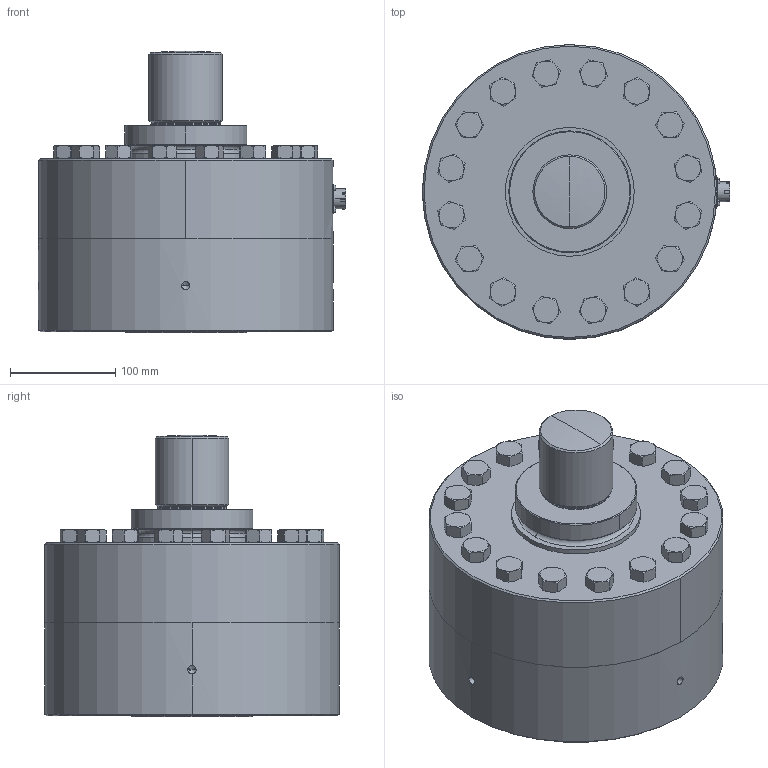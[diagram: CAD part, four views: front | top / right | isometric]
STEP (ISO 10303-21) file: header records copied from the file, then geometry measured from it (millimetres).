
FILE_DESCRIPTION (( 'STEP AP203' ), '1' );
FILE_NAME ('Interface 1640AJH-200K.STEP', '2012-03-14T17:57:35', ( 'Ricky Parrish' ), ( '' ), 'SwSTEP 2.0', 'SolidWorks 2002349', '' );
FILE_SCHEMA (( 'CONFIG_CONTROL_DESIGN' ));
Length unit declared in the file: inch
Products named in the file (1): Interface 1640AJH-200K
Bounding box: 291.17 x 279.3 x 266.7 mm (x, y, z)
Volume: 10489843 mm3; surface area: 329438.7 mm2
Topology: 1 solids, 1 shells, 513 faces, 1207 edges, 727 vertices
Faces by surface type: cone 246, plane 189, cylinder 60, bspline 14, torus 4
Entity records: 16276 total; most frequent: CARTESIAN_POINT 5294, ORIENTED_EDGE 2394, DIRECTION 2081, EDGE_CURVE 1197, AXIS2_PLACEMENT_3D 876, VERTEX_POINT 727, EDGE_LOOP 554, FACE_OUTER_BOUND 513
